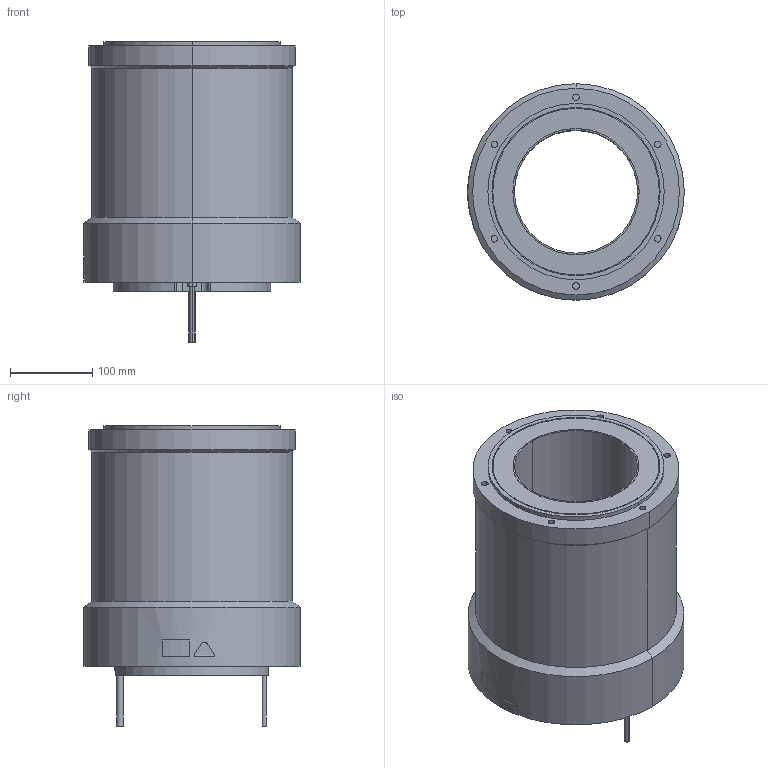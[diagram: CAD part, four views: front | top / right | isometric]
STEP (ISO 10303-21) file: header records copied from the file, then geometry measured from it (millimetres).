
FILE_DESCRIPTION (( 'STEP AP203' ), '1' );
FILE_NAME ('sgm7d_2bi_c5_.STEP', '2016-02-22T10:03:13', ( '' ), ( '' ), 'SwSTEP 2.0', 'SolidWorks 2010', '' );
FILE_SCHEMA (( 'CONFIG_CONTROL_DESIGN' ));
Length unit declared in the file: millimetre
Products named in the file (1): sgm7d_2bi_c5_
Bounding box: 264.08 x 264 x 366 mm (x, y, z)
Volume: 9123681.5 mm3; surface area: 471274.8 mm2
Topology: 1 solids, 1 shells, 171 faces, 400 edges, 263 vertices
Faces by surface type: cylinder 103, plane 59, bspline 5, cone 4
Entity records: 5246 total; most frequent: CARTESIAN_POINT 1074, DIRECTION 933, ORIENTED_EDGE 800, EDGE_CURVE 400, AXIS2_PLACEMENT_3D 382, VERTEX_POINT 263, CIRCLE 215, EDGE_LOOP 205
